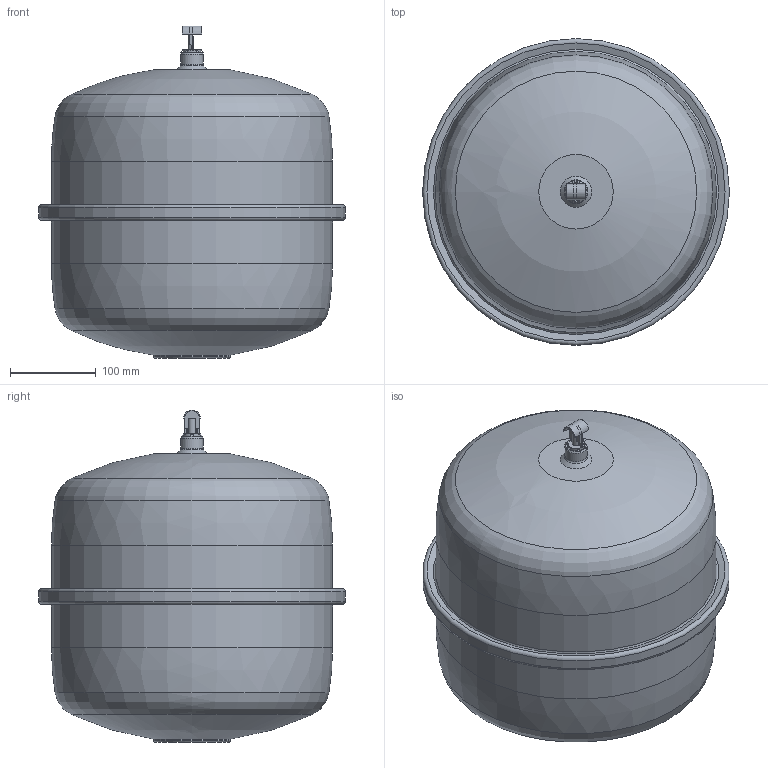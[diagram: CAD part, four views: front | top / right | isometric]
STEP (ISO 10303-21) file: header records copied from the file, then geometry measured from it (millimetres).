
FILE_DESCRIPTION(/* description */ (''),/* implementation_level */ '2;1');
FILE_NAME(/* name */ '\\DATASERVER\data\Flamco\3D-Modellen\Inventor\Airfix\Airfix A\24558_airfix_a_25l_10_3.stp',/* time_stamp */ '2025-05-06T11:12:20+02:00',/* author */ ('kasius'),/* organization */ (''),/* preprocessor_version */ 'ST-DEVELOPER v18.1',/* originating_system */ 'Autodesk Inventor 2021',/* authorisation */ '');
FILE_SCHEMA (('AUTOMOTIVE_DESIGN { 1 0 10303 214 3 1 1 }'));
Length unit declared in the file: millimetre
Products named in the file (1): 24558_airfix_a_25l_10_3
Bounding box: 358 x 358 x 387.45 mm (x, y, z)
Volume: 24865897.3 mm3; surface area: 479973.1 mm2
Topology: 2 solids, 2 shells, 110 faces, 309 edges, 207 vertices
Faces by surface type: plane 75, cylinder 15, torus 8, cone 8, bspline 2, sphere 2
Full cylindrical faces by diameter (mm): 7 x1, 8.8 x1, 18 x1, 20 x1, 20.8 x1, 26 x1, 90 x1, 328 x2, 358 x1
Entity records: 3795 total; most frequent: CARTESIAN_POINT 679, DIRECTION 636, ORIENTED_EDGE 618, EDGE_CURVE 309, AXIS2_PLACEMENT_3D 218, VERTEX_POINT 207, LINE 200, VECTOR 200
